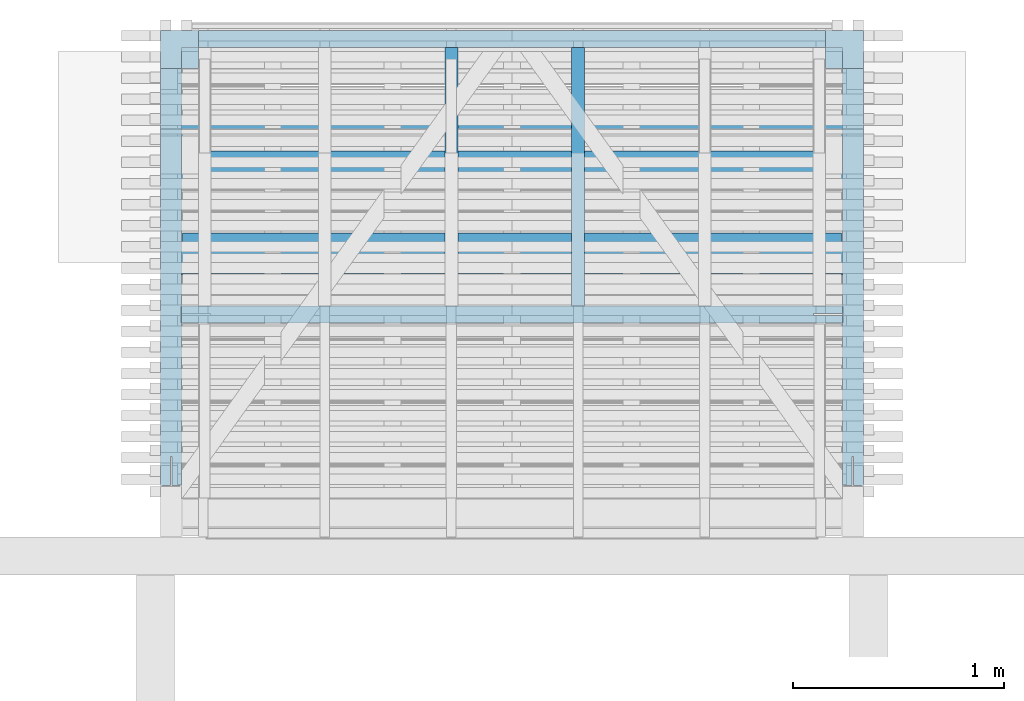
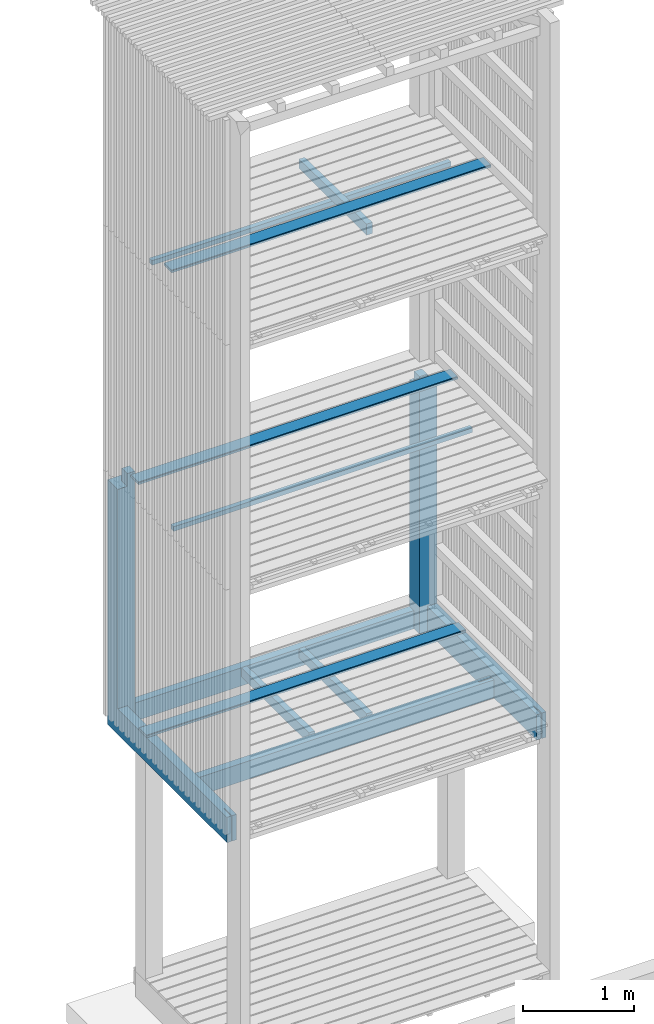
# One storey, part 149 of 182: 9 beams.
"""IFC2X3 building model written with IfcOpenShell, lengths in metres."""

from ifc_helpers import new_model, si_unit, frame, origin, place, context, project, spatial, faceted_brep, element, save


model = new_model("IFC2X3")

# Units and contexts
model_context = context("Model", 3, precision=1e-06, world=origin())
ifc_project = project(units=[si_unit("LENGTHUNIT", "METRE"), si_unit("PLANEANGLEUNIT", "RADIAN")], contexts=[model_context])

# Site, building, storey
site = spatial("IfcSite", under=ifc_project, CompositionType="ELEMENT")
building = spatial("IfcBuilding", under=site, CompositionType="ELEMENT")
storey = spatial("IfcBuildingStorey", under=building, Name="vs", CompositionType="ELEMENT", Elevation=-0.85)

# Beams
placement = place(None, origin())
beam_1_placement = place(placement, frame((34.7199999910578, 11.792577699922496, 2.437999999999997), z_axis=(0.0, -1.0, 0.0), x_axis=(0.0, 0.0, 1.0)))
element("IfcBeam", 1, at=beam_1_placement, inside=storey, Name="Poteau", context=model_context, shape_type="Brep", body=[
    faceted_brep([(2.841999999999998, -1.564999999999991, -0.997499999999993), (2.701999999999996, -1.564999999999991, -0.997499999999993), (2.701999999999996, -1.484999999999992, -0.997499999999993), (2.841999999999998, -1.484999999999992, -0.997499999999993), (2.701999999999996, 1.664999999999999, -1.077499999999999), (2.701999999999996, 1.485000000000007, -1.077499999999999), (0.202000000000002, 1.485000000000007, -1.077499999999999), (0.202000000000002, -1.484999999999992, -1.077499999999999), (2.701999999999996, -1.484999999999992, -1.077499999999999), (2.701999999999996, -1.664999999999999, -1.077499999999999), (0.002000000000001, -1.664999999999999, -1.077499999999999), (0.002000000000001, 1.664999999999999, -1.077499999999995), (0.282000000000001, -1.664999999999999, 1.077499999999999), (0.002000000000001, -1.664999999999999, 1.077499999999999), (0.002000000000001, -1.664999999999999, -1.077499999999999), (2.701999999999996, -1.664999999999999, -1.077499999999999), (2.701999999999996, -1.664999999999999, -0.897499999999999), (0.282000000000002, -1.664999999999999, -0.897499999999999), (2.701999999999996, -1.664999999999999, -0.897499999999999), (2.701999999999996, -1.664999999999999, -1.077499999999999), (2.701999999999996, -1.484999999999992, -1.077499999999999), (2.701999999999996, -1.484999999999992, -0.997499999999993), (2.701999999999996, -1.564999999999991, -0.997499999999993), (2.701999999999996, -1.564999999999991, -0.897499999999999), (2.701999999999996, -1.564999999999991, -0.897499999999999), (2.701999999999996, -1.564999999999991, -0.997499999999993), (2.841999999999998, -1.564999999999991, -0.997499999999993), (2.841999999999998, -1.564999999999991, -0.897499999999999), (2.841999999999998, -1.564999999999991, -0.897499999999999), (2.841999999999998, -1.564999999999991, -0.997499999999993), (2.841999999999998, -1.484999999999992, -0.997499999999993), (2.841999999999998, -1.484999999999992, -0.897499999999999), (0.002000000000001, -1.564999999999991, -0.897499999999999), (0.282000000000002, -1.564999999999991, -0.897499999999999), (0.282000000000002, -1.664999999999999, -0.897499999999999), (2.701999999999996, -1.664999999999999, -0.897499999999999), (2.701999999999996, -1.564999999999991, -0.897499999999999), (2.841999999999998, -1.564999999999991, -0.897499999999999), (2.841999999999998, -1.484999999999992, -0.897499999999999), (0.002000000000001, -1.484999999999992, -0.897499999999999), (0.202000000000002, -1.484999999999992, -0.997499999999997), (0.002000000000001, -1.484999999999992, -0.997499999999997), (0.002000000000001, -1.484999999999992, -0.897499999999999), (2.841999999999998, -1.484999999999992, -0.897499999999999), (2.841999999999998, -1.484999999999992, -0.997499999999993), (2.701999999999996, -1.484999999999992, -0.997499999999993), (2.701999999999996, -1.484999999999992, -1.077499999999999), (0.202000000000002, -1.484999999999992, -1.077499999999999), (2.841999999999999, 1.565000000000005, -0.897499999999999), (2.701999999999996, 1.565000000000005, -0.897499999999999), (2.701999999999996, 1.664999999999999, -0.897499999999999), (0.282000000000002, 1.664999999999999, -0.897499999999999), (0.282000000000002, 1.565000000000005, -0.897499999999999), (0.002000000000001, 1.565000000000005, -0.897499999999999), (0.002000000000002, 1.485000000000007, -0.897499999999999), (2.841999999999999, 1.485000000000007, -0.897499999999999), (2.841999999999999, 1.485000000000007, -0.997499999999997), (2.841999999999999, 1.485000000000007, -0.897499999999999), (0.002000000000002, 1.485000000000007, -0.897499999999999), (0.002000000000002, 1.485000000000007, -0.997500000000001), (0.202000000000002, 1.485000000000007, -0.997500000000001), (0.202000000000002, 1.485000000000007, -1.077499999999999), (2.701999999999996, 1.485000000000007, -1.077499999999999), (2.701999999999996, 1.485000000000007, -0.997499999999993), (2.701999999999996, 1.664999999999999, -1.077499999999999), (0.002000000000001, 1.664999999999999, -1.077499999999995), (0.002000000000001, 1.664999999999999, 1.077499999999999), (0.282000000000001, 1.664999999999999, 1.077499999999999), (0.282000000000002, 1.664999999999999, -0.897499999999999), (2.701999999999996, 1.664999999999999, -0.897499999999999), (0.202000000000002, 1.485000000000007, -0.997500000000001), (0.002000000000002, 1.485000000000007, -0.997500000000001), (0.002000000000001, -1.484999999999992, -0.997499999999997), (0.202000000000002, -1.484999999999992, -0.997499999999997), (0.202000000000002, -1.484999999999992, -1.077499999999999), (0.202000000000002, 1.485000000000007, -1.077499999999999), (0.202000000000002, 1.485000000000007, -0.997500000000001), (0.202000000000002, -1.484999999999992, -0.997499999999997), (0.002000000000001, -1.42799999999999, 0.263500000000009), (0.002, -1.564999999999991, 0.263500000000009), (0.177, -1.564999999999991, 0.263500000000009), (0.202000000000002, -1.564999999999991, 0.263500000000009), (0.202000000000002, -1.42799999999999, 0.263500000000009), (0.002000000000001, -1.42799999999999, 0.271500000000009), (0.002000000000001, -1.42799999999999, 0.263500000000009), (0.202000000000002, -1.42799999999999, 0.263500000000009), (0.202000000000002, -1.42799999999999, 0.271500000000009), (0.177, -1.564999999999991, 0.271500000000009), (0.002, -1.564999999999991, 0.271500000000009), (0.002000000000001, -1.42799999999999, 0.271500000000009), (0.202000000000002, -1.42799999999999, 0.271500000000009), (0.202000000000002, -1.564999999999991, 0.271500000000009), (0.177, -1.564999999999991, 0.263500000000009), (0.002, -1.564999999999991, 0.263500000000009), (0.002, -1.564999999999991, 0.22950000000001), (0.177, -1.564999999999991, 0.22950000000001), (0.202000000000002, -1.564999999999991, 0.271500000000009), (0.202000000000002, -1.42799999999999, 0.271500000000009), (0.202000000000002, -1.42799999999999, 0.263500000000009), (0.202000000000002, -1.564999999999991, 0.263500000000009), (0.202000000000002, -1.564999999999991, 0.227500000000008), (0.202000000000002, 1.565000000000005, 0.227500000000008), (0.202000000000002, 1.565000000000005, 0.30750000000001), (0.202000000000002, -1.564999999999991, 0.30750000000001), (0.002000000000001, 1.565000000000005, 0.227500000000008), (0.202000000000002, 1.565000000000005, 0.227500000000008), (0.202000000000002, -1.564999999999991, 0.227500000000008), (0.002, -1.564999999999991, 0.227500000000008), (0.202000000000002, -1.564999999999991, 0.30750000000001), (0.202000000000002, 1.565000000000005, 0.30750000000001), (0.002000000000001, 1.565000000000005, 0.30750000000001), (0.002, -1.564999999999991, 0.30750000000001), (0.002, -1.564999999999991, 0.305500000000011), (0.002, -1.564999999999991, 0.271500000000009), (0.177, -1.564999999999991, 0.271500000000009), (0.177, -1.564999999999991, 0.305500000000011), (0.002, -1.564999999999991, 0.227500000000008), (0.202000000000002, -1.564999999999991, 0.227500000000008), (0.202000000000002, -1.564999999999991, 0.263500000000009), (0.177, -1.564999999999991, 0.263500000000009), (0.177, -1.564999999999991, 0.271500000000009), (0.202000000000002, -1.564999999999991, 0.271500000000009), (0.202000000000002, -1.564999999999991, 0.30750000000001), (0.002, -1.564999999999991, 0.30750000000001), (0.002000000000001, -1.564999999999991, 1.077499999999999), (0.282000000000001, -1.564999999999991, 1.077499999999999), (0.282000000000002, -1.564999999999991, -0.897499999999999), (0.002000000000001, -1.564999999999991, -0.897499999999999), (0.002, -1.569999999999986, 0.22950000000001), (0.002, -1.569999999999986, 0.305500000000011), (0.177, -1.569999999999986, 0.305500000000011), (0.177, -1.569999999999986, 0.22950000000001), (0.177, -1.564999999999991, 0.271500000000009), (0.177, -1.564999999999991, 0.263500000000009), (0.177, -1.564999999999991, 0.22950000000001), (0.177, -1.569999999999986, 0.22950000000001), (0.177, -1.569999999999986, 0.305500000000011), (0.177, -1.564999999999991, 0.305500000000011), (0.177, -1.564999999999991, 0.22950000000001), (0.002, -1.564999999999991, 0.22950000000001), (0.002, -1.569999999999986, 0.22950000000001), (0.177, -1.569999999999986, 0.22950000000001), (0.177, -1.569999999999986, 0.305500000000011), (0.002, -1.569999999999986, 0.305500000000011), (0.002, -1.564999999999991, 0.305500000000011), (0.177, -1.564999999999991, 0.305500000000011), (0.002000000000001, -1.610999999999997, 0.940500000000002), (0.002000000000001, -1.618999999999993, 0.940500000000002), (0.282000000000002, -1.618999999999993, 0.940500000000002), (0.282000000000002, -1.610999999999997, 0.940500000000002), (0.282000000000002, -1.618999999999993, 0.940500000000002), (0.002000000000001, -1.618999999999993, 0.940500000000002), (0.002000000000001, -1.618999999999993, 1.077499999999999), (0.282000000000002, -1.618999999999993, 1.077500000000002), (0.002000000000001, -1.664999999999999, 1.077499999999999), (0.282000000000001, -1.664999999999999, 1.077499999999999), (0.282000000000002, -1.618999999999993, 1.077500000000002), (0.002000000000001, -1.618999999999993, 1.077499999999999), (0.282000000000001, -1.564999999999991, 1.077499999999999), (0.002000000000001, -1.564999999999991, 1.077499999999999), (0.002000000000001, -1.610999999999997, 1.077499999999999), (0.282000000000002, -1.610999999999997, 1.077500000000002), (0.282000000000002, -1.610999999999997, 1.077500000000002), (0.002000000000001, -1.610999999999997, 1.077499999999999), (0.002000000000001, -1.610999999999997, 0.940500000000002), (0.282000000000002, -1.610999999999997, 0.940500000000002), (0.282000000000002, -1.564999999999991, -0.897499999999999), (0.282000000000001, -1.564999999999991, 1.077499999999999), (0.282000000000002, -1.610999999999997, 1.077500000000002), (0.282000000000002, -1.610999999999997, 0.940500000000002), (0.282000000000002, -1.618999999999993, 0.940500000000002), (0.282000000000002, -1.618999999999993, 1.077500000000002), (0.282000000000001, -1.664999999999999, 1.077499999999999), (0.282000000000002, -1.664999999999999, -0.897499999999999), (0.002000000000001, 1.619000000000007, 0.940499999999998), (0.002000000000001, 1.611000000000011, 0.940499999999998), (0.282000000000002, 1.611000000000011, 0.940499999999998), (0.282000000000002, 1.619000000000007, 0.940499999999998), (0.282000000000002, 1.611000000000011, 0.940499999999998), (0.002000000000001, 1.611000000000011, 0.940499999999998), (0.002000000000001, 1.611000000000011, 1.077499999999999), (0.282000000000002, 1.611000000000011, 1.077499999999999), (0.002000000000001, 1.565000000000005, 1.077499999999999), (0.282000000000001, 1.565000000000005, 1.077499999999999), (0.282000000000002, 1.611000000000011, 1.077499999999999), (0.002000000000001, 1.611000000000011, 1.077499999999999), (0.282000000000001, 1.664999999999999, 1.077499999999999), (0.002000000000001, 1.664999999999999, 1.077499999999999), (0.002000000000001, 1.619000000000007, 1.077499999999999), (0.282000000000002, 1.619000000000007, 1.077499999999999), (0.282000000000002, 1.619000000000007, 1.077499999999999), (0.002000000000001, 1.619000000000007, 1.077499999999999), (0.002000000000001, 1.619000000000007, 0.940499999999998), (0.282000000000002, 1.619000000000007, 0.940499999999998), (0.282000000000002, 1.664999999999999, -0.897499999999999), (0.282000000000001, 1.664999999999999, 1.077499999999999), (0.282000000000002, 1.619000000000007, 1.077499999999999), (0.282000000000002, 1.619000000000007, 0.940499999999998), (0.282000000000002, 1.611000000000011, 0.940499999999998), (0.282000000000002, 1.611000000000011, 1.077499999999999), (0.282000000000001, 1.565000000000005, 1.077499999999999), (0.282000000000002, 1.565000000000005, -0.897499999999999), (0.202000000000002, 1.565000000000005, 0.227500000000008), (0.002000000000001, 1.565000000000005, 0.227500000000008), (0.002000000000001, 1.565000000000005, -0.897499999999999), (0.282000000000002, 1.565000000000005, -0.897499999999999), (0.282000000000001, 1.565000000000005, 1.077499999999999), (0.002000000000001, 1.565000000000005, 1.077499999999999), (0.002000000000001, 1.565000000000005, 0.30750000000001), (0.202000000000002, 1.565000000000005, 0.30750000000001), (0.002, 1.442250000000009, 0.249000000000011), (0.002, 1.442250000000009, 0.28600000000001), (1e-15, 1.442250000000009, 0.28600000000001), (1e-15, 1.442250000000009, 0.249000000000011), (0.002, 1.442250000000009, 0.249000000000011), (1e-15, 1.442250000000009, 0.249000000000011), (0.0, 1.565750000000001, 0.249000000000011), (0.002, 1.565750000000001, 0.249000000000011), (1e-15, 1.442250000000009, 0.28600000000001), (0.002, 1.442250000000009, 0.28600000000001), (0.002, 1.565750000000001, 0.28600000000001), (0.0, 1.565750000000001, 0.28600000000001), (1e-15, 1.442250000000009, 0.249000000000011), (1e-15, 1.442250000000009, 0.28600000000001), (0.0, 1.565750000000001, 0.28600000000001), (0.0, 1.565750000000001, 0.249000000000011), (0.0, 1.565750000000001, 0.249000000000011), (0.0, 1.565750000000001, 0.28600000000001), (0.002, 1.565750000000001, 0.28600000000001), (0.002, 1.565750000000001, 0.249000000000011), (0.002000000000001, 1.565000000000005, 0.30750000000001), (0.002000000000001, 1.565000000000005, 1.077499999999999), (0.002000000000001, 1.611000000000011, 1.077499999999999), (0.002000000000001, 1.611000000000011, 0.940499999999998), (0.002000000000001, 1.619000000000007, 0.940499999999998), (0.002000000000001, 1.619000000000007, 1.077499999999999), (0.002000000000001, 1.664999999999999, 1.077499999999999), (0.002000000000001, 1.664999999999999, -1.077499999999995), (0.002000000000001, -1.664999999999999, -1.077499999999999), (0.002000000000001, -1.664999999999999, 1.077499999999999), (0.002000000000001, -1.618999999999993, 1.077499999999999), (0.002000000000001, -1.618999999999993, 0.940500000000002), (0.002000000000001, -1.610999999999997, 0.940500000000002), (0.002000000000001, -1.610999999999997, 1.077499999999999), (0.002000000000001, -1.564999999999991, 1.077499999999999), (0.002, -1.564999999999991, 0.30750000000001), (0.002, -1.564999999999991, 0.271500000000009), (0.002, -1.564999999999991, 0.305500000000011), (0.002, -1.569999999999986, 0.305500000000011), (0.002, -1.569999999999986, 0.22950000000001), (0.002, -1.564999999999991, 0.22950000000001), (0.002, -1.564999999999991, 0.263500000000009), (0.002000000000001, -1.42799999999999, 0.263500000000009), (0.002000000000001, -1.42799999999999, 0.271500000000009), (0.002000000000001, 1.565000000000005, -0.897499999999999), (0.002000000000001, 1.565000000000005, 0.227500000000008), (0.002, -1.564999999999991, 0.227500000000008), (0.002000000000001, -1.564999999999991, -0.897499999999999), (0.002000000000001, -1.484999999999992, -0.897499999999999), (0.002000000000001, -1.484999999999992, -0.997499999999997), (0.002000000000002, 1.485000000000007, -0.997500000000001), (0.002000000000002, 1.485000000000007, -0.897499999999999), (0.002, 1.565750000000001, 0.249000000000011), (0.002, 1.565750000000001, 0.28600000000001), (0.002, 1.442250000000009, 0.28600000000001), (0.002, 1.442250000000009, 0.249000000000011), (2.841999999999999, 1.485000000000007, -0.997499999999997), (2.701999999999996, 1.485000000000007, -0.997499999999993), (2.701999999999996, 1.565000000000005, -0.997499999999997), (2.841999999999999, 1.565000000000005, -0.997499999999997), (2.841999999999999, 1.565000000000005, -0.897499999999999), (2.841999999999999, 1.485000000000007, -0.897499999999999), (2.841999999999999, 1.485000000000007, -0.997499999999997), (2.841999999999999, 1.565000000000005, -0.997499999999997), (2.701999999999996, 1.565000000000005, -0.897499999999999), (2.841999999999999, 1.565000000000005, -0.897499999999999), (2.841999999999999, 1.565000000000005, -0.997499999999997), (2.701999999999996, 1.565000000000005, -0.997499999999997), (2.701999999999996, 1.664999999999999, -1.077499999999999), (2.701999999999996, 1.664999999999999, -0.897499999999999), (2.701999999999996, 1.565000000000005, -0.897499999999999), (2.701999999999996, 1.565000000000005, -0.997499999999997), (2.701999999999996, 1.485000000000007, -0.997499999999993), (2.701999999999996, 1.485000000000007, -1.077499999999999)], [[[0, 1, 2, 3]], [[4, 5, 6, 7, 8, 9, 10, 11]], [[12, 13, 14, 15, 16, 17]], [[18, 19, 20, 21, 22, 23]], [[24, 25, 26, 27]], [[28, 29, 30, 31]], [[32, 33, 34, 35, 36, 37, 38, 39]], [[40, 41, 42, 43, 44, 45, 46, 47]], [[48, 49, 50, 51, 52, 53, 54, 55]], [[56, 57, 58, 59, 60, 61, 62, 63]], [[64, 65, 66, 67, 68, 69]], [[70, 71, 72, 73]], [[74, 75, 76, 77]], [[78, 79, 80, 81, 82]], [[83, 84, 85, 86]], [[87, 88, 89, 90, 91]], [[92, 93, 94, 95]], [[96, 97, 98, 99, 100, 101, 102, 103]], [[104, 105, 106, 107]], [[108, 109, 110, 111]], [[112, 113, 114, 115]], [[116, 117, 118, 119, 120, 121, 122, 123, 124, 125, 126, 127]], [[128, 129, 130, 131]], [[132, 133, 134, 135, 136, 137]], [[138, 139, 140, 141]], [[142, 143, 144, 145]], [[146, 147, 148, 149]], [[150, 151, 152, 153]], [[154, 155, 156, 157]], [[158, 159, 160, 161]], [[162, 163, 164, 165]], [[166, 167, 168, 169, 170, 171, 172, 173]], [[174, 175, 176, 177]], [[178, 179, 180, 181]], [[182, 183, 184, 185]], [[186, 187, 188, 189]], [[190, 191, 192, 193]], [[194, 195, 196, 197, 198, 199, 200, 201]], [[202, 203, 204, 205, 206, 207, 208, 209]], [[210, 211, 212, 213]], [[214, 215, 216, 217]], [[218, 219, 220, 221]], [[222, 223, 224, 225]], [[226, 227, 228, 229]], [[230, 231, 232, 233, 234, 235, 236, 237, 238, 239, 240, 241, 242, 243, 244, 245], [246, 247, 248, 249, 250, 251, 252, 253], [254, 255, 256, 257, 258, 259, 260, 261], [262, 263, 264, 265]], [[266, 267, 268, 269]], [[270, 271, 272, 273]], [[274, 275, 276, 277]], [[278, 279, 280, 281, 282, 283]]]),
])
beam_2_placement = place(placement, frame((36.38499999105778, 12.384577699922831, 5.433499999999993), z_axis=(0.0, 0.0, 1.0), x_axis=(-1.0, -1e-14, 0.0)))
element("IfcBeam", 2, at=beam_2_placement, inside=storey, Name="Caillebotis", context=model_context, shape_type="Brep", body=[
    faceted_brep([(3.329999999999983, -0.072500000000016, -0.0135), (3.329999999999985, 0.072499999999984, -0.0135), (3.329999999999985, 0.072499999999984, 0.0085), (3.329999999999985, 0.067499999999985, 0.0135), (3.329999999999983, -0.067500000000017, 0.0135), (3.329999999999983, -0.072500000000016, 0.008500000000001), (-1.5e-14, -0.072499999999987, 0.008500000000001), (-1.5e-14, -0.067499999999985, 0.0135), (-1.4e-14, 0.067500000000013, 0.0135), (-1.4e-14, 0.072500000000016, 0.0085), (-1.4e-14, 0.072500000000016, -0.0135), (-1.5e-14, -0.072499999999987, -0.0135), (3.329999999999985, 0.072499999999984, 0.0085), (3.329999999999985, 0.072499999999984, -0.0135), (-1.4e-14, 0.072500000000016, -0.0135), (-1.4e-14, 0.072500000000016, 0.0085), (3.329999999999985, 0.067499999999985, 0.0135), (3.329999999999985, 0.072499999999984, 0.0085), (-1.4e-14, 0.072500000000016, 0.0085), (-1.4e-14, 0.067500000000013, 0.0135), (3.329999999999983, -0.067500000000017, 0.0135), (3.329999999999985, 0.067499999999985, 0.0135), (-1.4e-14, 0.067500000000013, 0.0135), (-1.5e-14, -0.067499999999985, 0.0135), (3.329999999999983, -0.072500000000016, 0.008500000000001), (3.329999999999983, -0.067500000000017, 0.0135), (-1.5e-14, -0.067499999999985, 0.0135), (-1.5e-14, -0.072499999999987, 0.008500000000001), (3.329999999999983, -0.072500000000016, -0.0135), (3.329999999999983, -0.072500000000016, 0.008500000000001), (-1.5e-14, -0.072499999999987, 0.008500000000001), (-1.5e-14, -0.072499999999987, -0.0135), (-1.4e-14, 0.072500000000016, -0.0135), (3.329999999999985, 0.072499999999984, -0.0135), (3.329999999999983, -0.072500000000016, -0.0135), (-1.5e-14, -0.072499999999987, -0.0135)], [[[0, 1, 2, 3, 4, 5]], [[6, 7, 8, 9, 10, 11]], [[12, 13, 14, 15]], [[16, 17, 18, 19]], [[20, 21, 22, 23]], [[24, 25, 26, 27]], [[28, 29, 30, 31]], [[32, 33, 34, 35]]]),
])
beam_3_placement = place(placement, frame((36.27999999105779, 11.886327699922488, 5.167399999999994), z_axis=(0.0, 0.0, 1.0), x_axis=(-1.0, 0.0, 0.0)))
element("IfcBeam", 3, at=beam_3_placement, inside=storey, Name="Bardage", context=model_context, shape_type="Brep", body=[
    faceted_brep([(3.120000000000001, 0.024999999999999, -0.024999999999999), (3.120000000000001, 0.024999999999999, 0.025), (3.120000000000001, -0.024999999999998, 0.025), (3.120000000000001, -0.024999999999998, -0.024999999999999), (-3e-15, -0.025000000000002, -0.024999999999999), (-3e-15, -0.025000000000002, 0.025), (-3e-15, 0.024999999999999, 0.025), (-3e-15, 0.024999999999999, -0.024999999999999), (-3e-15, 0.024999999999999, -0.024999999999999), (-3e-15, 0.024999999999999, 0.025), (3.120000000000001, 0.024999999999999, 0.025), (3.120000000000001, 0.024999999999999, -0.024999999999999), (-3e-15, 0.024999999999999, 0.025), (-3e-15, -0.025000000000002, 0.025), (3.120000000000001, -0.024999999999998, 0.025), (3.120000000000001, 0.024999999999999, 0.025), (-3e-15, -0.025000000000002, 0.025), (-3e-15, -0.025000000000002, -0.024999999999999), (3.120000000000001, -0.024999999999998, -0.024999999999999), (3.120000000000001, -0.024999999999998, 0.025), (-3e-15, -0.025000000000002, -0.024999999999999), (-3e-15, 0.024999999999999, -0.024999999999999), (3.120000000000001, 0.024999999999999, -0.024999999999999), (3.120000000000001, -0.024999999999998, -0.024999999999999)], [[[0, 1, 2, 3]], [[4, 5, 6, 7]], [[8, 9, 10, 11]], [[12, 13, 14, 15]], [[16, 17, 18, 19]], [[20, 21, 22, 23]]]),
])
beam_4_placement = place(placement, frame((36.27999999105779, 12.274661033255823, 7.86739999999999), z_axis=(0.0, 0.0, 1.0), x_axis=(-1.0, 0.0, 0.0)))
element("IfcBeam", 4, at=beam_4_placement, inside=storey, Name="Bardage", context=model_context, shape_type="Brep", body=[
    faceted_brep([(3.119999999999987, 0.024999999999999, 0.025000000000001), (3.119999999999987, -0.024999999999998, 0.025000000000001), (3.119999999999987, -0.024999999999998, -0.024999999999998), (3.119999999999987, 0.024999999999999, -0.024999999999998), (-3e-15, -0.025000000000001, 0.025000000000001), (-3e-15, 0.024999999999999, 0.025000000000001), (-3e-15, 0.024999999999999, -0.024999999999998), (-3e-15, -0.025000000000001, -0.024999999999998), (3.119999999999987, 0.024999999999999, -0.024999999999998), (3.119999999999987, -0.024999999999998, -0.024999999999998), (-3e-15, -0.025000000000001, -0.024999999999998), (-3e-15, 0.024999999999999, -0.024999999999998), (-3e-15, -0.025000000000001, -0.024999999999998), (3.119999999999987, -0.024999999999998, -0.024999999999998), (3.119999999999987, -0.024999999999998, 0.025000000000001), (-3e-15, -0.025000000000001, 0.025000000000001), (-3e-15, -0.025000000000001, 0.025000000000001), (3.119999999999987, -0.024999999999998, 0.025000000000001), (3.119999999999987, 0.024999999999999, 0.025000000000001), (-3e-15, 0.024999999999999, 0.025000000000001), (-3e-15, 0.024999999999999, 0.025000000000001), (3.119999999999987, 0.024999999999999, 0.025000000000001), (3.119999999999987, 0.024999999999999, -0.024999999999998), (-3e-15, 0.024999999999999, -0.024999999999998)], [[[0, 1, 2, 3]], [[4, 5, 6, 7]], [[8, 9, 10, 11]], [[12, 13, 14, 15]], [[16, 17, 18, 19]], [[20, 21, 22, 23]]]),
])
beam_5_placement = place(placement, frame((36.384999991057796, 12.234577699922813, 2.733499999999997), z_axis=(0.0, 0.0, 1.0), x_axis=(-1.0, 0.0, 0.0)))
element("IfcBeam", 5, at=beam_5_placement, inside=storey, Name="Caillebotis", context=model_context, shape_type="Brep", body=[
    faceted_brep([(3.329999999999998, -0.072499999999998, -0.0135), (3.329999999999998, 0.072499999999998, -0.0135), (3.329999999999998, 0.072499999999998, 0.0085), (3.329999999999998, 0.067500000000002, 0.0135), (3.329999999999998, -0.067500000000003, 0.0135), (3.329999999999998, -0.072499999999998, 0.008500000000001), (0.0, -0.072500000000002, 0.008500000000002), (0.0, -0.067500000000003, 0.0135), (0.0, 0.067499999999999, 0.0135), (0.0, 0.072499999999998, 0.0085), (0.0, 0.072499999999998, -0.0135), (0.0, -0.072500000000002, -0.0135), (3.329999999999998, 0.072499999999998, 0.0085), (3.329999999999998, 0.072499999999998, -0.0135), (0.0, 0.072499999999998, -0.0135), (0.0, 0.072499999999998, 0.0085), (3.329999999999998, 0.067500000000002, 0.0135), (3.329999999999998, 0.072499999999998, 0.0085), (0.0, 0.072499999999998, 0.0085), (0.0, 0.067499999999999, 0.0135), (3.329999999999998, -0.067500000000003, 0.0135), (3.329999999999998, 0.067500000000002, 0.0135), (0.0, 0.067499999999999, 0.0135), (0.0, -0.067500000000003, 0.0135), (3.329999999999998, -0.072499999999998, 0.008500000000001), (3.329999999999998, -0.067500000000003, 0.0135), (0.0, -0.067500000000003, 0.0135), (0.0, -0.072500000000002, 0.008500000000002), (3.329999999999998, -0.072499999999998, -0.0135), (3.329999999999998, -0.072499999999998, 0.008500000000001), (0.0, -0.072500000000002, 0.008500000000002), (0.0, -0.072500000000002, -0.0135), (0.0, 0.072499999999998, -0.0135), (3.329999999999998, 0.072499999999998, -0.0135), (3.329999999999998, -0.072499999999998, -0.0135), (0.0, -0.072500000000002, -0.0135)], [[[0, 1, 2, 3, 4, 5]], [[6, 7, 8, 9, 10, 11]], [[12, 13, 14, 15]], [[16, 17, 18, 19]], [[20, 21, 22, 23]], [[24, 25, 26, 27]], [[28, 29, 30, 31]], [[32, 33, 34, 35]]]),
])
beam_6_placement = place(placement, frame((36.384999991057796, 11.78457769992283, 8.13349999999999), z_axis=(0.0, 0.0, 1.0), x_axis=(-1.0, -8e-15, 0.0)))
element("IfcBeam", 6, at=beam_6_placement, inside=storey, Name="Caillebotis", context=model_context, shape_type="Brep", body=[
    faceted_brep([(3.329999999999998, -0.072500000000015, -0.013500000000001), (3.329999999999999, 0.072499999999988, -0.013500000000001), (3.329999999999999, 0.072499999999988, 0.008499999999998), (3.329999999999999, 0.067499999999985, 0.013499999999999), (3.329999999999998, -0.067500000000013, 0.013499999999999), (3.329999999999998, -0.072500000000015, 0.0085), (-1e-15, -0.072499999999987, 0.0085), (-1e-15, -0.067499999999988, 0.013499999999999), (1e-15, 0.067500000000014, 0.013499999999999), (1e-15, 0.072500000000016, 0.008499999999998), (1e-15, 0.072500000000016, -0.013500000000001), (-1e-15, -0.072499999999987, -0.013500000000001), (3.329999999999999, 0.072499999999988, 0.008499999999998), (3.329999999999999, 0.072499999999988, -0.013500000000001), (1e-15, 0.072500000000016, -0.013500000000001), (1e-15, 0.072500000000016, 0.008499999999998), (3.329999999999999, 0.067499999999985, 0.013499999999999), (3.329999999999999, 0.072499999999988, 0.008499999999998), (1e-15, 0.072500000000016, 0.008499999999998), (1e-15, 0.067500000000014, 0.013499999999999), (3.329999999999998, -0.067500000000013, 0.013499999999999), (3.329999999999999, 0.067499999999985, 0.013499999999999), (1e-15, 0.067500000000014, 0.013499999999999), (-1e-15, -0.067499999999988, 0.013499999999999), (3.329999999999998, -0.072500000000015, 0.0085), (3.329999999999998, -0.067500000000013, 0.013499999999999), (-1e-15, -0.067499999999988, 0.013499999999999), (-1e-15, -0.072499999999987, 0.0085), (3.329999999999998, -0.072500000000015, -0.013500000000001), (3.329999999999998, -0.072500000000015, 0.0085), (-1e-15, -0.072499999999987, 0.0085), (-1e-15, -0.072499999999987, -0.013500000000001), (1e-15, 0.072500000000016, -0.013500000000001), (3.329999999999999, 0.072499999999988, -0.013500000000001), (3.329999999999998, -0.072500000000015, -0.013500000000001), (-1e-15, -0.072499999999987, -0.013500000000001)], [[[0, 1, 2, 3, 4, 5]], [[6, 7, 8, 9, 10, 11]], [[12, 13, 14, 15]], [[16, 17, 18, 19]], [[20, 21, 22, 23]], [[24, 25, 26, 27]], [[28, 29, 30, 31]], [[32, 33, 34, 35]]]),
])
beam_7_placement = place(placement, frame((35.03299999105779, 11.565077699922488, 8.00424999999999), z_axis=(0.0, 0.0, 1.0), x_axis=(0.0, 1.0, 0.0)))
element("IfcBeam", 7, at=beam_7_placement, inside=storey, Name="Solive", context=model_context, shape_type="Brep", body=[
    faceted_brep([(0.0, -0.030000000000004, -0.061849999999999), (1.225000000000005, -0.030000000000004, -0.061849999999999), (1.225000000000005, -0.030000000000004, 0.037349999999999), (0.0, -0.030000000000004, 0.061849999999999), (0.0, 0.029999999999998, 0.061850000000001), (0.0, 0.029999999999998, -0.061849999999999), (0.0, -0.030000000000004, -0.061849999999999), (0.0, -0.030000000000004, 0.061849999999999), (0.0, -0.030000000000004, -0.061849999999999), (0.0, 0.029999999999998, -0.061849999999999), (1.225000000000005, 0.029999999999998, -0.061849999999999), (1.225000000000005, -0.030000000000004, -0.061849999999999), (1.225000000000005, 0.029999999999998, -0.061849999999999), (0.0, 0.029999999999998, -0.061849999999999), (0.0, 0.029999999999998, 0.061850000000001), (1.225000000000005, 0.029999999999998, 0.037349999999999), (1.225000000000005, -0.030000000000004, 0.037349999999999), (1.225000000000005, -0.030000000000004, -0.061849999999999), (1.225000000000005, 0.029999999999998, -0.061849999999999), (1.225000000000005, 0.029999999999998, 0.037349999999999), (0.0, -0.030000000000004, 0.061849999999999), (1.225000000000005, -0.030000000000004, 0.037349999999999), (1.225000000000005, 0.029999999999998, 0.037349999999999), (0.0, 0.029999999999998, 0.061850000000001)], [[[0, 1, 2, 3]], [[4, 5, 6, 7]], [[8, 9, 10, 11]], [[12, 13, 14, 15]], [[16, 17, 18, 19]], [[20, 21, 22, 23]]]),
])
beam_8_placement = place(placement, frame((34.432999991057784, 11.565077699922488, 2.604249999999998), z_axis=(0.0, 0.0, 1.0), x_axis=(1.2e-14, 1.0, 0.0)))
element("IfcBeam", 8, at=beam_8_placement, inside=storey, Name="Solive", context=model_context, shape_type="Brep", body=[
    faceted_brep([(0.0, -0.030000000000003, -0.06185), (1.225000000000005, -0.029999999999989, -0.06185), (1.225000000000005, -0.029999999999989, 0.037349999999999), (0.0, -0.030000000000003, 0.06185), (-1e-15, 0.029999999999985, -0.06185), (1.225000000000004, 0.029999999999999, -0.06185), (1.225000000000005, -0.029999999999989, -0.06185), (0.0, -0.030000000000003, -0.06185), (-1e-15, 0.029999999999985, 0.06185), (-1e-15, 0.029999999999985, -0.06185), (0.0, -0.030000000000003, -0.06185), (0.0, -0.030000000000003, 0.06185), (1.225000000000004, 0.029999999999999, -0.06185), (-1e-15, 0.029999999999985, -0.06185), (-1e-15, 0.029999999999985, 0.06185), (1.225000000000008, 0.029999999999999, 0.037349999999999), (1.225000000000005, -0.029999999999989, 0.037349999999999), (1.225000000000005, -0.029999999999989, -0.06185), (1.225000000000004, 0.029999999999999, -0.06185), (1.225000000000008, 0.029999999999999, 0.037349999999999), (0.0, -0.030000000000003, 0.06185), (1.225000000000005, -0.029999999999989, 0.037349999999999), (1.225000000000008, 0.029999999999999, 0.037349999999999), (-1e-15, 0.029999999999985, 0.06185)], [[[0, 1, 2, 3]], [[4, 5, 6, 7]], [[8, 9, 10, 11]], [[12, 13, 14, 15]], [[16, 17, 18, 19]], [[20, 21, 22, 23]]]),
])
beam_9_placement = place(placement, frame((35.03299999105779, 11.565077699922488, 2.604249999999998), z_axis=(0.0, 0.0, 1.0), x_axis=(0.0, 1.0, 0.0)))
element("IfcBeam", 9, at=beam_9_placement, inside=storey, Name="Solive", context=model_context, shape_type="Brep", body=[
    faceted_brep([(0.0, -0.030000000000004, -0.06185), (1.225000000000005, -0.030000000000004, -0.06185), (1.225000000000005, -0.030000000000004, 0.037349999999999), (0.0, -0.030000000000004, 0.06185), (0.0, 0.029999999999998, 0.06185), (0.0, 0.029999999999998, -0.06185), (0.0, -0.030000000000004, -0.06185), (0.0, -0.030000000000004, 0.06185), (0.0, -0.030000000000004, -0.06185), (0.0, 0.029999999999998, -0.06185), (1.225000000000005, 0.029999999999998, -0.06185), (1.225000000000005, -0.030000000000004, -0.06185), (1.225000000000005, 0.029999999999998, -0.06185), (0.0, 0.029999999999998, -0.06185), (0.0, 0.029999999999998, 0.06185), (1.225000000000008, 0.029999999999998, 0.037349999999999), (1.225000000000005, -0.030000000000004, 0.037349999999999), (1.225000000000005, -0.030000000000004, -0.06185), (1.225000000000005, 0.029999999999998, -0.06185), (1.225000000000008, 0.029999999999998, 0.037349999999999), (0.0, -0.030000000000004, 0.06185), (1.225000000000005, -0.030000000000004, 0.037349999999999), (1.225000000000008, 0.029999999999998, 0.037349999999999), (0.0, 0.029999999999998, 0.06185)], [[[0, 1, 2, 3]], [[4, 5, 6, 7]], [[8, 9, 10, 11]], [[12, 13, 14, 15]], [[16, 17, 18, 19]], [[20, 21, 22, 23]]]),
])

save(model, "model.ifc")
